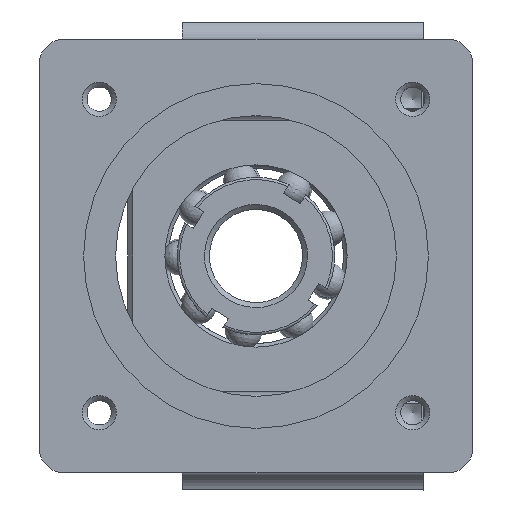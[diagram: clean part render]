
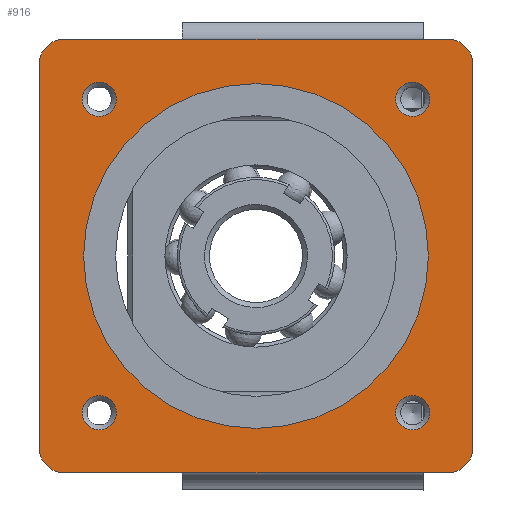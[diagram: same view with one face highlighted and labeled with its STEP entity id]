
A CAD part, left-side view. The second image highlights one B-rep face of the part: STEP entity #916.
In plain terms, the highlighted planar face has unit normal (-1, 0, 0).
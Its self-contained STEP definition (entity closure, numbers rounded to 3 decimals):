
#916=ADVANCED_FACE('',(#3702,#3704,#3706,#3708,#3710,#3712),#3714,.T.);
#3702=FACE_BOUND('',#3703,.T.);
#3703=EDGE_LOOP('',(#6061,#6062,#6063,#6064,#6065,#6066,#6067,#6068));
#3704=FACE_BOUND('',#3705,.T.);
#3705=EDGE_LOOP('',(#6069));
#3706=FACE_BOUND('',#3707,.T.);
#3707=EDGE_LOOP('',(#6070));
#3708=FACE_BOUND('',#3709,.T.);
#3709=EDGE_LOOP('',(#6071));
#3710=FACE_BOUND('',#3711,.T.);
#3711=EDGE_LOOP('',(#6072));
#3712=FACE_BOUND('',#3713,.T.);
#3713=EDGE_LOOP('',(#6073));
#3714=PLANE('',#3715);
#3715=AXIS2_PLACEMENT_3D('',#3716,#3717,#3718);
#3716=CARTESIAN_POINT('',(-13.,88.,-47.5));
#3717=DIRECTION('',(-1.,0.,0.));
#3718=DIRECTION('',(0.,-1.,0.));
#6061=ORIENTED_EDGE('',*,*,#7109,.F.);
#6062=ORIENTED_EDGE('',*,*,#7031,.T.);
#6063=ORIENTED_EDGE('',*,*,#7114,.F.);
#6064=ORIENTED_EDGE('',*,*,#7115,.F.);
#6065=ORIENTED_EDGE('',*,*,#7116,.F.);
#6066=ORIENTED_EDGE('',*,*,#7037,.T.);
#6067=ORIENTED_EDGE('',*,*,#7117,.F.);
#6068=ORIENTED_EDGE('',*,*,#7118,.T.);
#6069=ORIENTED_EDGE('',*,*,#7119,.T.);
#6070=ORIENTED_EDGE('',*,*,#7120,.T.);
#6071=ORIENTED_EDGE('',*,*,#7121,.T.);
#6072=ORIENTED_EDGE('',*,*,#7122,.T.);
#6073=ORIENTED_EDGE('',*,*,#7123,.T.);
#7031=EDGE_CURVE('',#7716,#7725,#7727,.F.);
#7037=EDGE_CURVE('',#7737,#7734,#7738,.F.);
#7109=EDGE_CURVE('',#7716,#7853,#7856,.F.);
#7114=EDGE_CURVE('',#7861,#7725,#7863,.F.);
#7115=EDGE_CURVE('',#7864,#7861,#7865,.T.);
#7116=EDGE_CURVE('',#7737,#7864,#7866,.F.);
#7117=EDGE_CURVE('',#7867,#7734,#7868,.F.);
#7118=EDGE_CURVE('',#7867,#7853,#7869,.T.);
#7119=EDGE_CURVE('',#7870,#7870,#7871,.F.);
#7120=EDGE_CURVE('',#7872,#7872,#7873,.F.);
#7121=EDGE_CURVE('',#7874,#7874,#7875,.F.);
#7122=EDGE_CURVE('',#7876,#7876,#7877,.F.);
#7123=EDGE_CURVE('',#7878,#7878,#7879,.F.);
#7716=VERTEX_POINT('',#9073);
#7725=VERTEX_POINT('',#9092);
#7727=LINE('',#9096,#9097);
#7734=VERTEX_POINT('',#9115);
#7737=VERTEX_POINT('',#9120);
#7738=LINE('',#9121,#9122);
#7853=VERTEX_POINT('',#9540);
#7856=CIRCLE('',#9548,5.);
#7861=VERTEX_POINT('',#9564);
#7863=CIRCLE('',#9568,5.);
#7864=VERTEX_POINT('',#9572);
#7865=LINE('',#9573,#9574);
#7866=CIRCLE('',#9576,5.);
#7867=VERTEX_POINT('',#9580);
#7868=CIRCLE('',#9581,5.);
#7869=LINE('',#9585,#9586);
#7870=VERTEX_POINT('',#9588);
#7871=CIRCLE('',#9589,3.459);
#7872=VERTEX_POINT('',#9593);
#7873=CIRCLE('',#9594,3.459);
#7874=VERTEX_POINT('',#9598);
#7875=CIRCLE('',#9599,35.);
#7876=VERTEX_POINT('',#9603);
#7877=CIRCLE('',#9604,3.459);
#7878=VERTEX_POINT('',#9608);
#7879=CIRCLE('',#9609,3.459);
#9073=CARTESIAN_POINT('',(-13.,5.,44.));
#9092=CARTESIAN_POINT('',(-13.,83.,44.));
#9096=CARTESIAN_POINT('',(-13.,83.,44.));
#9097=VECTOR('',#9098,1.);
#9098=DIRECTION('',(0.,-1.,0.));
#9115=CARTESIAN_POINT('',(-13.,5.,-44.));
#9120=CARTESIAN_POINT('',(-13.,83.,-44.));
#9121=CARTESIAN_POINT('',(-13.,5.,-44.));
#9122=VECTOR('',#9123,1.);
#9123=DIRECTION('',(0.,1.,0.));
#9540=CARTESIAN_POINT('',(-13.,0.,39.));
#9548=AXIS2_PLACEMENT_3D('',#9549,#9550,#9551);
#9549=CARTESIAN_POINT('',(-13.,5.,39.));
#9550=DIRECTION('',(-1.,0.,0.));
#9551=DIRECTION('',(0.,-1.,0.));
#9564=CARTESIAN_POINT('',(-13.,88.,39.));
#9568=AXIS2_PLACEMENT_3D('',#9569,#9570,#9571);
#9569=CARTESIAN_POINT('',(-13.,83.,39.));
#9570=DIRECTION('',(-1.,0.,0.));
#9571=DIRECTION('',(0.,0.,1.));
#9572=CARTESIAN_POINT('',(-13.,88.,-39.));
#9573=CARTESIAN_POINT('',(-13.,88.,-39.));
#9574=VECTOR('',#9575,1.);
#9575=DIRECTION('',(0.,0.,1.));
#9576=AXIS2_PLACEMENT_3D('',#9577,#9578,#9579);
#9577=CARTESIAN_POINT('',(-13.,83.,-39.));
#9578=DIRECTION('',(-1.,0.,0.));
#9579=DIRECTION('',(0.,1.,0.));
#9580=CARTESIAN_POINT('',(-13.,0.,-39.));
#9581=AXIS2_PLACEMENT_3D('',#9582,#9583,#9584);
#9582=CARTESIAN_POINT('',(-13.,5.,-39.));
#9583=DIRECTION('',(-1.,0.,0.));
#9584=DIRECTION('',(0.,0.,-1.));
#9585=CARTESIAN_POINT('',(-13.,0.,-39.));
#9586=VECTOR('',#9587,1.);
#9587=DIRECTION('',(0.,0.,1.));
#9588=CARTESIAN_POINT('',(-13.,15.639,31.82));
#9589=AXIS2_PLACEMENT_3D('',#9590,#9591,#9592);
#9590=CARTESIAN_POINT('',(-13.,12.18,31.82));
#9591=DIRECTION('',(-1.,0.,0.));
#9592=DIRECTION('',(0.,1.,0.));
#9593=CARTESIAN_POINT('',(-13.,79.279,-31.82));
#9594=AXIS2_PLACEMENT_3D('',#9595,#9596,#9597);
#9595=CARTESIAN_POINT('',(-13.,75.82,-31.82));
#9596=DIRECTION('',(-1.,0.,0.));
#9597=DIRECTION('',(0.,1.,0.));
#9598=CARTESIAN_POINT('',(-13.,44.,35.));
#9599=AXIS2_PLACEMENT_3D('',#9600,#9601,#9602);
#9600=CARTESIAN_POINT('',(-13.,44.,0.));
#9601=DIRECTION('',(-1.,0.,0.));
#9602=DIRECTION('',(0.,0.,1.));
#9603=CARTESIAN_POINT('',(-13.,79.279,31.82));
#9604=AXIS2_PLACEMENT_3D('',#9605,#9606,#9607);
#9605=CARTESIAN_POINT('',(-13.,75.82,31.82));
#9606=DIRECTION('',(-1.,0.,0.));
#9607=DIRECTION('',(0.,1.,0.));
#9608=CARTESIAN_POINT('',(-13.,15.639,-31.82));
#9609=AXIS2_PLACEMENT_3D('',#9610,#9611,#9612);
#9610=CARTESIAN_POINT('',(-13.,12.18,-31.82));
#9611=DIRECTION('',(-1.,0.,0.));
#9612=DIRECTION('',(0.,1.,0.));
